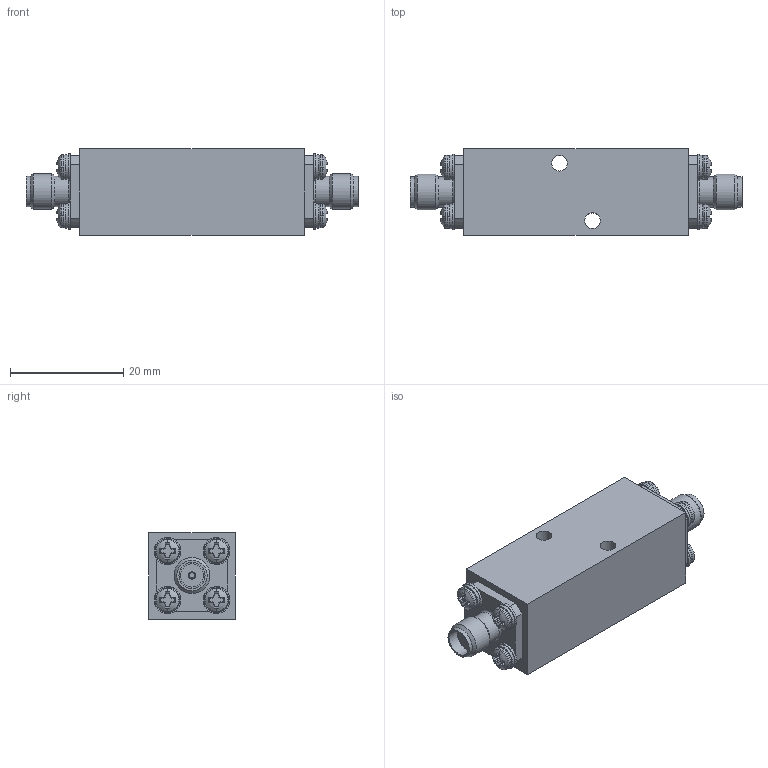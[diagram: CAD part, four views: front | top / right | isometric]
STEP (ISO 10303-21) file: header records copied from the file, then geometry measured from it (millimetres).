
FILE_DESCRIPTION(/* description */ (''),/* implementation_level */ '2;1');
FILE_NAME(/* name */ '\\uesvr4\Engineering\Engineering_Documentation_&_CAD\Source_&_Reference_Files_For_Engineering\Reference_File\3D_Step_Files\REFERENCE\WD3296_Rev-OR\WD3296_Rev-OR.stp',/* time_stamp */ '2021-12-15T16:17:55+06:00',/* author */ ('Nandakumar'),/* organization */ (''),/* preprocessor_version */ 'ST-DEVELOPER v18.1',/* originating_system */ 'AutoCAD Mechanical',/* authorisation */ '');
FILE_SCHEMA (('AUTOMOTIVE_DESIGN { 1 0 10303 214 3 1 1 }'));
Length unit declared in the file: inch
Products named in the file (1): Product
Bounding box: 58.57 x 15.24 x 15.24 mm (x, y, z)
Volume: 10101 mm3; surface area: 4005 mm2
Topology: 1 solids, 1 shells, 432 faces, 1224 edges, 822 vertices
Faces by surface type: plane 186, cylinder 152, cone 44, torus 34, sphere 16
Full cylindrical faces by diameter (mm): 0.94 x2, 1.27 x2, 2.794 x2, 4.089 x2, 4.369 x8, 4.615 x2, 4.75 x8, 5.334 x4, 6.35 x2
Entity records: 14645 total; most frequent: CARTESIAN_POINT 3439, ORIENTED_EDGE 2448, DIRECTION 2362, EDGE_CURVE 1224, AXIS2_PLACEMENT_3D 961, VERTEX_POINT 822, CIRCLE 528, EDGE_LOOP 464
